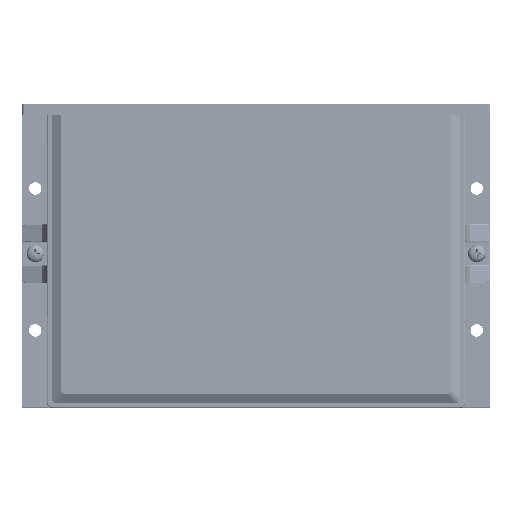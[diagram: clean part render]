
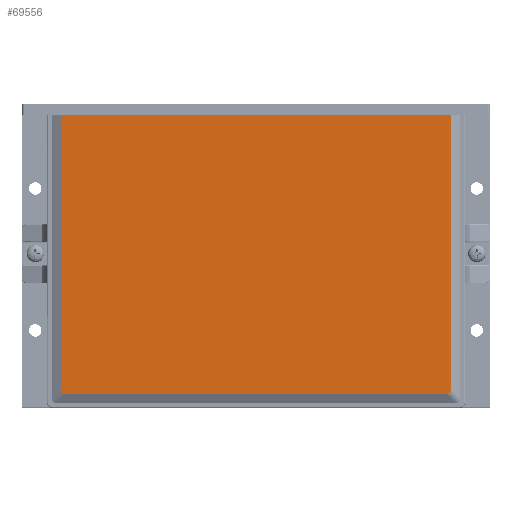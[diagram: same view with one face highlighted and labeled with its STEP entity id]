
A CAD part, top view. The second image highlights one B-rep face of the part: STEP entity #69556.
In plain terms, the highlighted planar face has unit normal (0, 0, 1).
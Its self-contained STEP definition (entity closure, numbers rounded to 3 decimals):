
#61480=CARTESIAN_POINT('Vertex',(-27.08,-62.446,11.96)) ;
#61483=CARTESIAN_POINT('Line Origine',(-27.08,0.,11.96)) ;
#61487=CARTESIAN_POINT('Vertex',(-27.08,62.446,11.96)) ;
#69458=CARTESIAN_POINT('Line Origine',(-37.083,-62.446,11.96)) ;
#69462=CARTESIAN_POINT('Vertex',(60.958,-62.446,11.96)) ;
#69477=CARTESIAN_POINT('Axis2P3D Location',(-37.224,76.135,11.96)) ;
#69483=CARTESIAN_POINT('Control Point',(60.958,-62.446,11.96)) ;
#69484=CARTESIAN_POINT('Control Point',(61.148,-62.446,11.96)) ;
#69485=CARTESIAN_POINT('Control Point',(61.335,-62.428,11.96)) ;
#69486=CARTESIAN_POINT('Control Point',(61.518,-62.387,11.96)) ;
#69487=CARTESIAN_POINT('Control Point',(61.728,-62.3,11.96)) ;
#69488=CARTESIAN_POINT('Control Point',(61.906,-62.169,11.96)) ;
#69489=CARTESIAN_POINT('Control Point',(61.94,-62.141,11.96)) ;
#69490=CARTESIAN_POINT('Control Point',(61.972,-62.112,11.96)) ;
#69491=CARTESIAN_POINT('Control Point',(62.002,-62.082,11.96)) ;
#69492=CARTESIAN_POINT('Vertex',(62.002,-62.082,11.96)) ;
#69496=CARTESIAN_POINT('Control Point',(62.002,-62.082,11.96)) ;
#69497=CARTESIAN_POINT('Control Point',(62.094,-61.989,11.96)) ;
#69498=CARTESIAN_POINT('Control Point',(62.173,-61.883,11.96)) ;
#69499=CARTESIAN_POINT('Control Point',(62.234,-61.766,11.96)) ;
#69500=CARTESIAN_POINT('Control Point',(62.312,-61.554,11.96)) ;
#69501=CARTESIAN_POINT('Control Point',(62.351,-61.326,11.96)) ;
#69502=CARTESIAN_POINT('Control Point',(62.361,-61.23,11.96)) ;
#69503=CARTESIAN_POINT('Control Point',(62.366,-61.134,11.96)) ;
#69504=CARTESIAN_POINT('Control Point',(62.366,-61.038,11.96)) ;
#69505=CARTESIAN_POINT('Vertex',(62.366,-61.038,11.96)) ;
#69508=CARTESIAN_POINT('Line Origine',(62.366,0.,11.96)) ;
#69512=CARTESIAN_POINT('Vertex',(62.366,61.038,11.96)) ;
#69516=CARTESIAN_POINT('Control Point',(62.366,61.038,11.96)) ;
#69517=CARTESIAN_POINT('Control Point',(62.366,61.228,11.96)) ;
#69518=CARTESIAN_POINT('Control Point',(62.348,61.415,11.96)) ;
#69519=CARTESIAN_POINT('Control Point',(62.307,61.598,11.96)) ;
#69520=CARTESIAN_POINT('Control Point',(62.22,61.808,11.96)) ;
#69521=CARTESIAN_POINT('Control Point',(62.089,61.986,11.96)) ;
#69522=CARTESIAN_POINT('Control Point',(62.061,62.019,11.96)) ;
#69523=CARTESIAN_POINT('Control Point',(62.033,62.051,11.96)) ;
#69524=CARTESIAN_POINT('Control Point',(62.002,62.082,11.96)) ;
#69525=CARTESIAN_POINT('Vertex',(62.002,62.082,11.96)) ;
#69529=CARTESIAN_POINT('Control Point',(62.002,62.082,11.96)) ;
#69530=CARTESIAN_POINT('Control Point',(61.91,62.174,11.96)) ;
#69531=CARTESIAN_POINT('Control Point',(61.804,62.252,11.96)) ;
#69532=CARTESIAN_POINT('Control Point',(61.686,62.314,11.96)) ;
#69533=CARTESIAN_POINT('Control Point',(61.474,62.392,11.96)) ;
#69534=CARTESIAN_POINT('Control Point',(61.246,62.431,11.96)) ;
#69535=CARTESIAN_POINT('Control Point',(61.151,62.441,11.96)) ;
#69536=CARTESIAN_POINT('Control Point',(61.055,62.446,11.96)) ;
#69537=CARTESIAN_POINT('Control Point',(60.958,62.446,11.96)) ;
#69538=CARTESIAN_POINT('Vertex',(60.958,62.446,11.96)) ;
#69541=CARTESIAN_POINT('Line Origine',(16.939,62.446,11.96)) ;
#61484=DIRECTION('Vector Direction',(0.,-1.,0.)) ;
#69459=DIRECTION('Vector Direction',(1.,0.,0.)) ;
#69478=DIRECTION('Axis2P3D Direction',(0.,-0.,1.)) ;
#69479=DIRECTION('Axis2P3D XDirection',(0.,1.,0.)) ;
#69509=DIRECTION('Vector Direction',(0.,1.,0.)) ;
#69542=DIRECTION('Vector Direction',(-1.,0.,0.)) ;
#69480=AXIS2_PLACEMENT_3D('Plane Axis2P3D',#69477,#69478,#69479) ;
#69547=ORIENTED_EDGE('',*,*,#61489,.T.) ;
#69548=ORIENTED_EDGE('',*,*,#69464,.T.) ;
#69549=ORIENTED_EDGE('',*,*,#69494,.T.) ;
#69550=ORIENTED_EDGE('',*,*,#69507,.T.) ;
#69551=ORIENTED_EDGE('',*,*,#69514,.T.) ;
#69552=ORIENTED_EDGE('',*,*,#69527,.T.) ;
#69553=ORIENTED_EDGE('',*,*,#69540,.T.) ;
#69554=ORIENTED_EDGE('',*,*,#69545,.T.) ;
#61485=VECTOR('Line Direction',#61484,1.) ;
#69460=VECTOR('Line Direction',#69459,1.) ;
#69510=VECTOR('Line Direction',#69509,1.) ;
#69543=VECTOR('Line Direction',#69542,1.) ;
#69556=ADVANCED_FACE('MANIFOLD_SOLID_BREP #9924',(#69555),#69481,.T.) ;
#69482=B_SPLINE_CURVE_WITH_KNOTS('',5,(#69483,#69484,#69485,#69486,#69487,#69488,#69489,#69490,#69491),.UNSPECIFIED.,.F.,.U.,(6,3,6),(0.,1.295,1.609),.UNSPECIFIED.) ;
#69495=B_SPLINE_CURVE_WITH_KNOTS('',5,(#69496,#69497,#69498,#69499,#69500,#69501,#69502,#69503,#69504),.UNSPECIFIED.,.F.,.U.,(6,3,6),(0.,0.951,1.609),.UNSPECIFIED.) ;
#69515=B_SPLINE_CURVE_WITH_KNOTS('',5,(#69516,#69517,#69518,#69519,#69520,#69521,#69522,#69523,#69524),.UNSPECIFIED.,.F.,.U.,(6,3,6),(0.,1.295,1.609),.UNSPECIFIED.) ;
#69528=B_SPLINE_CURVE_WITH_KNOTS('',5,(#69529,#69530,#69531,#69532,#69533,#69534,#69535,#69536,#69537),.UNSPECIFIED.,.F.,.U.,(6,3,6),(0.,0.951,1.609),.UNSPECIFIED.) ;
#61489=EDGE_CURVE('',#61488,#61481,#61486,.T.) ;
#69464=EDGE_CURVE('',#61481,#69463,#69461,.T.) ;
#69494=EDGE_CURVE('',#69463,#69493,#69482,.T.) ;
#69507=EDGE_CURVE('',#69493,#69506,#69495,.T.) ;
#69514=EDGE_CURVE('',#69506,#69513,#69511,.T.) ;
#69527=EDGE_CURVE('',#69513,#69526,#69515,.T.) ;
#69540=EDGE_CURVE('',#69526,#69539,#69528,.T.) ;
#69545=EDGE_CURVE('',#69539,#61488,#69544,.T.) ;
#69546=EDGE_LOOP('',(#69547,#69548,#69549,#69550,#69551,#69552,#69553,#69554)) ;
#69555=FACE_OUTER_BOUND('',#69546,.T.) ;
#61486=LINE('Line',#61483,#61485) ;
#69461=LINE('Line',#69458,#69460) ;
#69511=LINE('Line',#69508,#69510) ;
#69544=LINE('Line',#69541,#69543) ;
#69481=PLANE('Plane',#69480) ;
#61481=VERTEX_POINT('',#61480) ;
#61488=VERTEX_POINT('',#61487) ;
#69463=VERTEX_POINT('',#69462) ;
#69493=VERTEX_POINT('',#69492) ;
#69506=VERTEX_POINT('',#69505) ;
#69513=VERTEX_POINT('',#69512) ;
#69526=VERTEX_POINT('',#69525) ;
#69539=VERTEX_POINT('',#69538) ;
